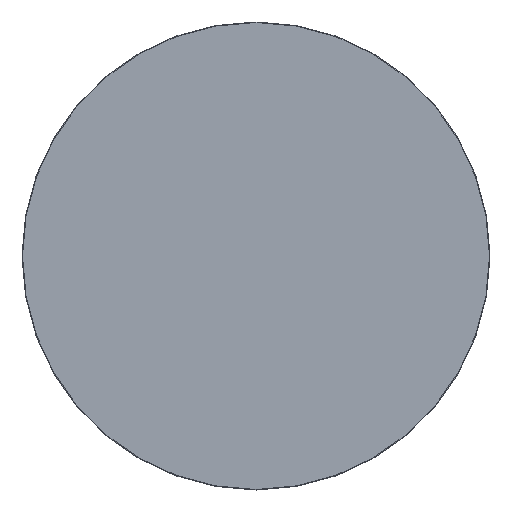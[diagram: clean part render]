
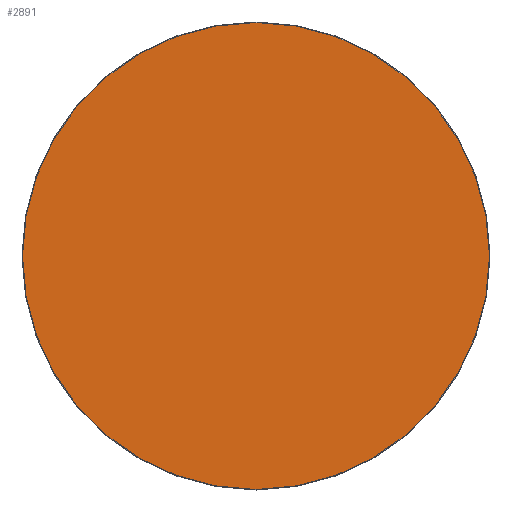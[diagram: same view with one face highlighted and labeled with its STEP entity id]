
A CAD part, top view. The second image highlights one B-rep face of the part: STEP entity #2891.
In plain terms, the highlighted planar face has unit normal (0, 0, 1).
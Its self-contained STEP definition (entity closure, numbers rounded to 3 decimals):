
#681=PLANE('',#3427);
#1181=ORIENTED_EDGE('',*,*,#1657,.T.);
#1657=EDGE_CURVE('',#1935,#1935,#2105,.F.);
#1935=VERTEX_POINT('',#5172);
#2105=CIRCLE('',#3428,449.);
#2323=EDGE_LOOP('',(#1181));
#2601=FACE_BOUND('',#2323,.T.);
#2891=ADVANCED_FACE('',(#2601),#681,.F.);
#3427=AXIS2_PLACEMENT_3D('',#5170,#4224,#4225);
#3428=AXIS2_PLACEMENT_3D('',#5171,#4226,#4227);
#4224=DIRECTION('',(0.,0.,-1.));
#4225=DIRECTION('',(-1.,0.,0.));
#4226=DIRECTION('',(0.,0.,-1.));
#4227=DIRECTION('',(-1.,0.,0.));
#5170=CARTESIAN_POINT('',(0.,0.,300.));
#5171=CARTESIAN_POINT('',(0.,0.,300.));
#5172=CARTESIAN_POINT('',(-449.,0.,300.));
